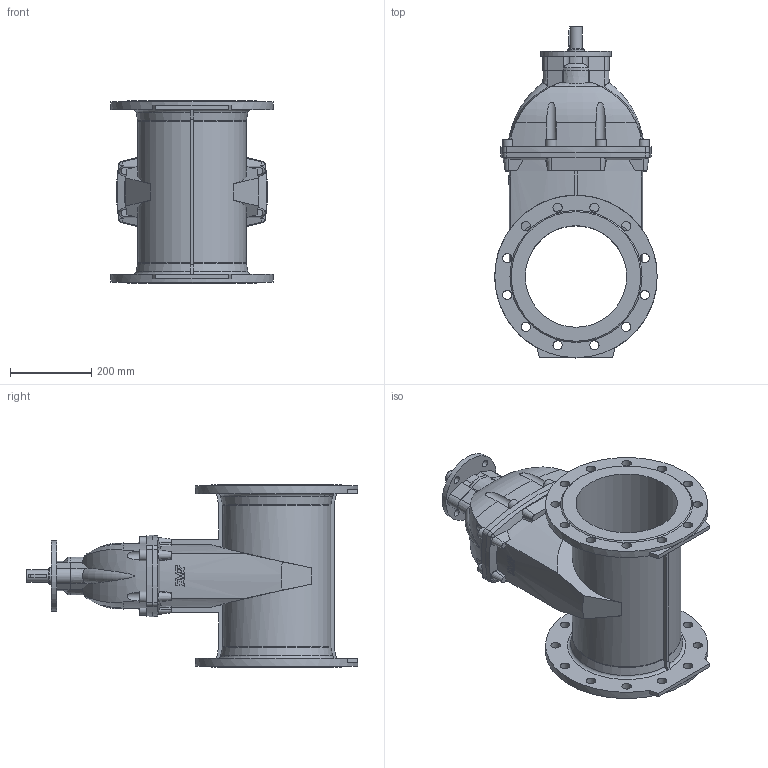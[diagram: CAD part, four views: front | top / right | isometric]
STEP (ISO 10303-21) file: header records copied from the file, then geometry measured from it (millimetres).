
FILE_DESCRIPTION (( 'STEP AP203' ), '1' );
FILE_NAME ('O_15_72_DN250_X0X_AA0.step', '2017-03-10T08:58:42', ( 'Windows User' ), ( 'AVK' ), 'SwSTEP 2.0', 'SolidWorks 2012', '' );
FILE_SCHEMA (( 'CONFIG_CONTROL_DESIGN' ));
Length unit declared in the file: millimetre
Products named in the file (1): O_15_72_DN250_X0X_AA0
Bounding box: 400 x 817 x 450 mm (x, y, z)
Volume: 24179489.5 mm3; surface area: 1503446.3 mm2
Topology: 1 solids, 1 shells, 319 faces, 910 edges, 602 vertices
Faces by surface type: plane 110, cylinder 75, cone 64, bspline 54, torus 16
Full cylindrical faces by diameter (mm): 18 x4, 23 x24, 30 x1, 40 x1, 175 x1, 250 x1, 400 x2
Entity records: 13435 total; most frequent: CARTESIAN_POINT 5858, ORIENTED_EDGE 1676, DIRECTION 1326, EDGE_CURVE 838, VERTEX_POINT 572, AXIS2_PLACEMENT_3D 556, EDGE_LOOP 428, FACE_OUTER_BOUND 353
